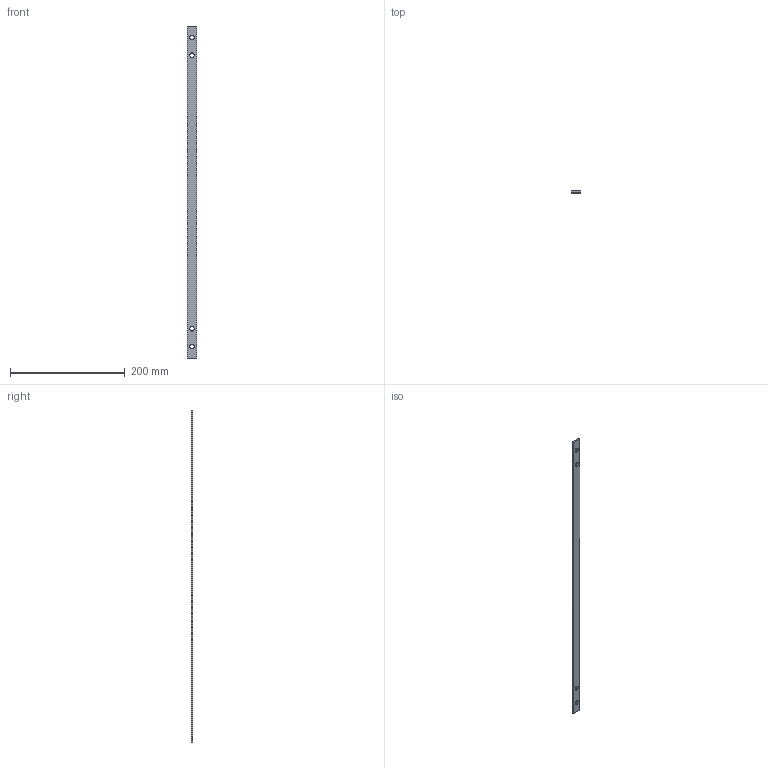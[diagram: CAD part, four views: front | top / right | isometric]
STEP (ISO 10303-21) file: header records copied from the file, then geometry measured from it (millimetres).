
FILE_DESCRIPTION( ( 'Unknown' ), '1' );
FILE_NAME( 'Q:/ACCESSORIES/WEB DRAWINGS/STEP/CBB22.stp', 'Unknown', ( 'Unknown' ), ( 'Unknown' ), 'XStep 1.0', 'Unknown', ' ' );
FILE_SCHEMA( ( 'CONFIG_CONTROL_DESIGN' ) );
Length unit declared in the file: millimetre
Products named in the file (1): 1
Bounding box: 15.88 x 3.17 x 577.85 mm (x, y, z)
Volume: 28499 mm3; surface area: 22038.5 mm2
Topology: 1 solids, 1 shells, 10 faces, 28 edges, 20 vertices
Faces by surface type: plane 6, cylinder 4
Full cylindrical faces by diameter (mm): 7.925 x4
Entity records: 336 total; most frequent: DIRECTION 50, CARTESIAN_POINT 47, ORIENTED_EDGE 40, EDGE_LOOP 22, EDGE_CURVE 20, AXIS2_PLACEMENT_3D 19, VERTEX_POINT 16, FACE_OUTER_BOUND 14
